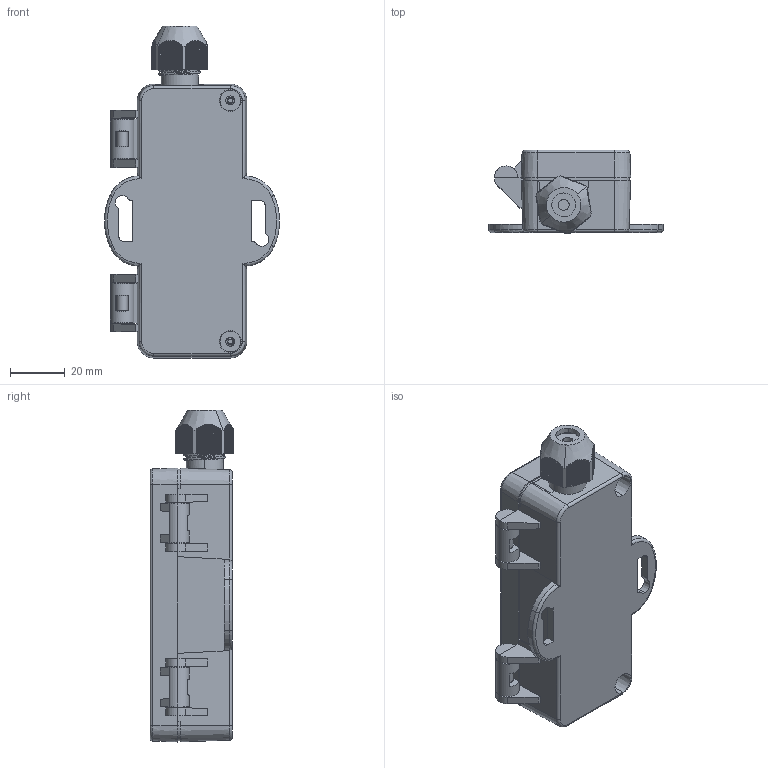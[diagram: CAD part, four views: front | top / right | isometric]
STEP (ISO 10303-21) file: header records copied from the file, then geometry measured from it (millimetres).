
FILE_DESCRIPTION (( 'STEP AP203' ), '1' );
FILE_NAME ('PB242.STEP', '2022-10-19T07:59:29', ( '' ), ( '' ), 'SwSTEP 2.0', 'SolidWorks 2021', '' );
FILE_SCHEMA (( 'CONFIG_CONTROL_DESIGN' ));
Length unit declared in the file: millimetre
Products named in the file (9): PB242
Assembly tree (10 placements, depth 2):
  PB242
    PB242
    PB242
    PB242
    PB242
    PB242  x2
    PB242
    PB242
    PB242  x2
Bounding box: 63.84 x 30.57 x 121.18 mm (x, y, z)
Volume: 53145.8 mm3; surface area: 45337.6 mm2
Topology: 10 solids, 10 shells, 1190 faces, 3186 edges, 2056 vertices
Faces by surface type: plane 585, cylinder 344, cone 129, bspline 64, torus 56, sphere 12
Entity records: 50359 total; most frequent: CARTESIAN_POINT 23262, ORIENTED_EDGE 5862, DIRECTION 4951, EDGE_CURVE 2931, VERTEX_POINT 1894, AXIS2_PLACEMENT_3D 1702, LINE 1547, VECTOR 1547
